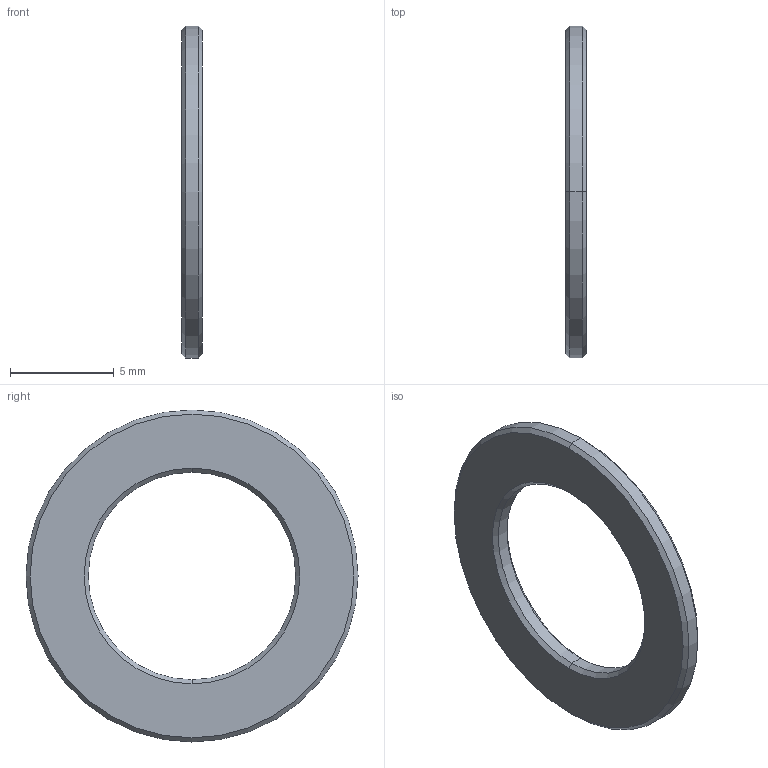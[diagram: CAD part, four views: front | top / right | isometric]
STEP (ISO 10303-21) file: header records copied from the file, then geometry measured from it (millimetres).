
FILE_DESCRIPTION (( 'STEP AP203' ), '1' );
FILE_NAME ('DHP-61P497330.STEP', '2024-12-06T01:46:19', ( '' ), ( '' ), 'SwSTEP 2.0', 'SolidWorks 2022', '' );
FILE_SCHEMA (( 'CONFIG_CONTROL_DESIGN' ));
Length unit declared in the file: millimetre
Products named in the file (3): 069GGA0537; DHP-61P497330; DCC111-M10ASSYワッシャ
Assembly tree (2 placements, depth 3):
  DHP-61P497330
    DCC111-M10ASSYワッシャ
      069GGA0537
Bounding box: 1 x 16 x 16 mm (x, y, z)
Volume: 119.3 mm3; surface area: 307.6 mm2
Topology: 1 solids, 1 shells, 14 faces, 28 edges, 16 vertices
Faces by surface type: cone 8, cylinder 4, plane 2
Entity records: 677 total; most frequent: DIRECTION 84, CARTESIAN_POINT 64, ORIENTED_EDGE 56, AXIS2_PLACEMENT_3D 36, EDGE_CURVE 28, PERSON_AND_ORGANIZATION 26, CALENDAR_DATE 19, COORDINATED_UNIVERSAL_TIME_OFFSET 19
